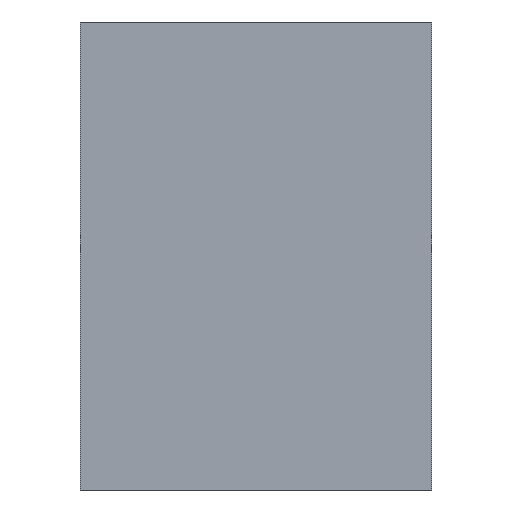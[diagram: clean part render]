
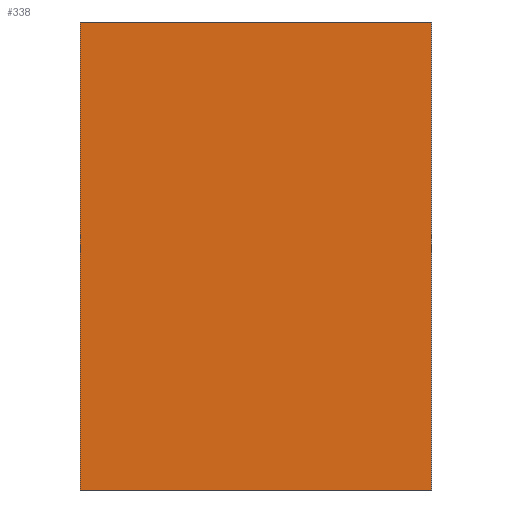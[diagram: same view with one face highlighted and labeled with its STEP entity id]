
A CAD part, left-side view. The second image highlights one B-rep face of the part: STEP entity #338.
In plain terms, the highlighted planar face has unit normal (-1, 0, 0).
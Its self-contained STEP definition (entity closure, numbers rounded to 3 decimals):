
#32 = PLANE('',#33);
#33 = AXIS2_PLACEMENT_3D('',#34,#35,#36);
#34 = CARTESIAN_POINT('',(0.731,0.731,2.));
#35 = DIRECTION('',(0.,0.,1.));
#36 = DIRECTION('',(1.,0.,-0.));
#57 = VERTEX_POINT('',#58);
#58 = CARTESIAN_POINT('',(-30.,1.5,2.));
#72 = PLANE('',#73);
#73 = AXIS2_PLACEMENT_3D('',#74,#75,#76);
#74 = CARTESIAN_POINT('',(0.967,1.5,0.967));
#75 = DIRECTION('',(0.,1.,0.));
#76 = DIRECTION('',(0.,-0.,1.));
#84 = EDGE_CURVE('',#57,#85,#87,.T.);
#85 = VERTEX_POINT('',#86);
#86 = CARTESIAN_POINT('',(-30.,-1.5,2.));
#87 = SURFACE_CURVE('',#88,(#92,#99),.PCURVE_S1.);
#88 = LINE('',#89,#90);
#89 = CARTESIAN_POINT('',(-30.,1.5,2.));
#90 = VECTOR('',#91,1.);
#91 = DIRECTION('',(0.,-1.,0.));
#92 = PCURVE('',#32,#93);
#93 = DEFINITIONAL_REPRESENTATION('',(#94),#98);
#94 = LINE('',#95,#96);
#95 = CARTESIAN_POINT('',(-30.731,0.769));
#96 = VECTOR('',#97,1.);
#97 = DIRECTION('',(0.,-1.));
#98 = ( GEOMETRIC_REPRESENTATION_CONTEXT(2) 
PARAMETRIC_REPRESENTATION_CONTEXT() REPRESENTATION_CONTEXT('2D SPACE',''
  ) );
#99 = PCURVE('',#100,#105);
#100 = PLANE('',#101);
#101 = AXIS2_PLACEMENT_3D('',#102,#103,#104);
#102 = CARTESIAN_POINT('',(-30.,0.5,-0.5));
#103 = DIRECTION('',(-1.,-0.,-0.));
#104 = DIRECTION('',(0.,0.,-1.));
#105 = DEFINITIONAL_REPRESENTATION('',(#106),#110);
#106 = LINE('',#107,#108);
#107 = CARTESIAN_POINT('',(-2.5,-1.));
#108 = VECTOR('',#109,1.);
#109 = DIRECTION('',(0.,1.));
#110 = ( GEOMETRIC_REPRESENTATION_CONTEXT(2) 
PARAMETRIC_REPRESENTATION_CONTEXT() REPRESENTATION_CONTEXT('2D SPACE',''
  ) );
#126 = PLANE('',#127);
#127 = AXIS2_PLACEMENT_3D('',#128,#129,#130);
#128 = CARTESIAN_POINT('',(-0.967,-1.5,0.967));
#129 = DIRECTION('',(-0.,-1.,-0.));
#130 = DIRECTION('',(0.,0.,-1.));
#152 = PLANE('',#153);
#153 = AXIS2_PLACEMENT_3D('',#154,#155,#156);
#154 = CARTESIAN_POINT('',(0.731,-0.731,-2.));
#155 = DIRECTION('',(-0.,-0.,-1.));
#156 = DIRECTION('',(-1.,0.,0.));
#172 = VERTEX_POINT('',#173);
#173 = CARTESIAN_POINT('',(-30.,-1.5,-2.));
#194 = EDGE_CURVE('',#172,#195,#197,.T.);
#195 = VERTEX_POINT('',#196);
#196 = CARTESIAN_POINT('',(-30.,1.5,-2.));
#197 = SURFACE_CURVE('',#198,(#202,#209),.PCURVE_S1.);
#198 = LINE('',#199,#200);
#199 = CARTESIAN_POINT('',(-30.,-1.5,-2.));
#200 = VECTOR('',#201,1.);
#201 = DIRECTION('',(0.,1.,0.));
#202 = PCURVE('',#152,#203);
#203 = DEFINITIONAL_REPRESENTATION('',(#204),#208);
#204 = LINE('',#205,#206);
#205 = CARTESIAN_POINT('',(30.731,-0.769));
#206 = VECTOR('',#207,1.);
#207 = DIRECTION('',(0.,1.));
#208 = ( GEOMETRIC_REPRESENTATION_CONTEXT(2) 
PARAMETRIC_REPRESENTATION_CONTEXT() REPRESENTATION_CONTEXT('2D SPACE',''
  ) );
#209 = PCURVE('',#100,#210);
#210 = DEFINITIONAL_REPRESENTATION('',(#211),#215);
#211 = LINE('',#212,#213);
#212 = CARTESIAN_POINT('',(1.5,2.));
#213 = VECTOR('',#214,1.);
#214 = DIRECTION('',(0.,-1.));
#215 = ( GEOMETRIC_REPRESENTATION_CONTEXT(2) 
PARAMETRIC_REPRESENTATION_CONTEXT() REPRESENTATION_CONTEXT('2D SPACE',''
  ) );
#242 = EDGE_CURVE('',#85,#172,#243,.T.);
#243 = SURFACE_CURVE('',#244,(#248,#255),.PCURVE_S1.);
#244 = LINE('',#245,#246);
#245 = CARTESIAN_POINT('',(-30.,-1.5,2.));
#246 = VECTOR('',#247,1.);
#247 = DIRECTION('',(0.,0.,-1.));
#248 = PCURVE('',#126,#249);
#249 = DEFINITIONAL_REPRESENTATION('',(#250),#254);
#250 = LINE('',#251,#252);
#251 = CARTESIAN_POINT('',(-1.033,-29.033));
#252 = VECTOR('',#253,1.);
#253 = DIRECTION('',(1.,0.));
#254 = ( GEOMETRIC_REPRESENTATION_CONTEXT(2) 
PARAMETRIC_REPRESENTATION_CONTEXT() REPRESENTATION_CONTEXT('2D SPACE',''
  ) );
#255 = PCURVE('',#100,#256);
#256 = DEFINITIONAL_REPRESENTATION('',(#257),#261);
#257 = LINE('',#258,#259);
#258 = CARTESIAN_POINT('',(-2.5,2.));
#259 = VECTOR('',#260,1.);
#260 = DIRECTION('',(1.,0.));
#261 = ( GEOMETRIC_REPRESENTATION_CONTEXT(2) 
PARAMETRIC_REPRESENTATION_CONTEXT() REPRESENTATION_CONTEXT('2D SPACE',''
  ) );
#318 = EDGE_CURVE('',#57,#195,#319,.T.);
#319 = SURFACE_CURVE('',#320,(#324,#331),.PCURVE_S1.);
#320 = LINE('',#321,#322);
#321 = CARTESIAN_POINT('',(-30.,1.5,2.));
#322 = VECTOR('',#323,1.);
#323 = DIRECTION('',(0.,0.,-1.));
#324 = PCURVE('',#72,#325);
#325 = DEFINITIONAL_REPRESENTATION('',(#326),#330);
#326 = LINE('',#327,#328);
#327 = CARTESIAN_POINT('',(1.033,-30.967));
#328 = VECTOR('',#329,1.);
#329 = DIRECTION('',(-1.,0.));
#330 = ( GEOMETRIC_REPRESENTATION_CONTEXT(2) 
PARAMETRIC_REPRESENTATION_CONTEXT() REPRESENTATION_CONTEXT('2D SPACE',''
  ) );
#331 = PCURVE('',#100,#332);
#332 = DEFINITIONAL_REPRESENTATION('',(#333),#337);
#333 = LINE('',#334,#335);
#334 = CARTESIAN_POINT('',(-2.5,-1.));
#335 = VECTOR('',#336,1.);
#336 = DIRECTION('',(1.,0.));
#337 = ( GEOMETRIC_REPRESENTATION_CONTEXT(2) 
PARAMETRIC_REPRESENTATION_CONTEXT() REPRESENTATION_CONTEXT('2D SPACE',''
  ) );
#338 = ADVANCED_FACE('',(#339),#100,.T.);
#339 = FACE_BOUND('',#340,.T.);
#340 = EDGE_LOOP('',(#341,#342,#343,#344));
#341 = ORIENTED_EDGE('',*,*,#318,.T.);
#342 = ORIENTED_EDGE('',*,*,#194,.F.);
#343 = ORIENTED_EDGE('',*,*,#242,.F.);
#344 = ORIENTED_EDGE('',*,*,#84,.F.);
